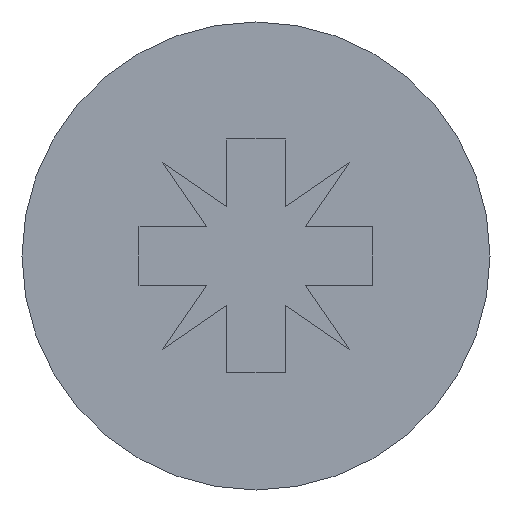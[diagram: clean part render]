
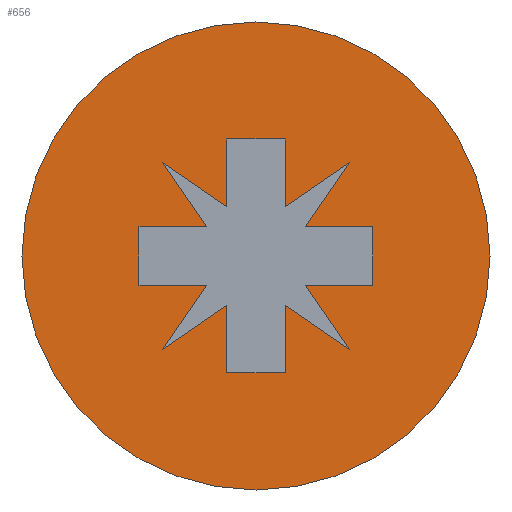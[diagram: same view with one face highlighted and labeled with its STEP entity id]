
A CAD part, left-side view. The second image highlights one B-rep face of the part: STEP entity #656.
In plain terms, the highlighted planar face has unit normal (-1, 0, 0).
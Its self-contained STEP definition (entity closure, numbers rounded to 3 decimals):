
#110=FACE_BOUND('',#190,.T.);
#125=CIRCLE('',#704,2.8);
#159=FACE_OUTER_BOUND('',#189,.T.);
#189=EDGE_LOOP('',(#583));
#190=EDGE_LOOP('',(#584,#585,#586,#587,#588,#589,#590,#591,#592,#593,#594,
#595,#596,#597,#598,#599,#600,#601,#602,#603));
#192=LINE('',#871,#258);
#196=LINE('',#880,#262);
#200=LINE('',#889,#266);
#206=LINE('',#901,#272);
#209=LINE('',#907,#275);
#212=LINE('',#913,#278);
#215=LINE('',#919,#281);
#217=LINE('',#924,#283);
#221=LINE('',#931,#287);
#224=LINE('',#937,#290);
#227=LINE('',#943,#293);
#237=LINE('',#961,#303);
#239=LINE('',#966,#305);
#242=LINE('',#970,#308);
#243=LINE('',#972,#309);
#244=LINE('',#975,#310);
#246=LINE('',#978,#312);
#247=LINE('',#981,#313);
#249=LINE('',#984,#315);
#250=LINE('',#986,#316);
#258=VECTOR('',#718,10.);
#262=VECTOR('',#724,10.);
#266=VECTOR('',#730,10.);
#272=VECTOR('',#738,10.);
#275=VECTOR('',#743,10.);
#278=VECTOR('',#748,10.);
#281=VECTOR('',#753,10.);
#283=VECTOR('',#757,10.);
#287=VECTOR('',#763,10.);
#290=VECTOR('',#768,10.);
#293=VECTOR('',#773,10.);
#303=VECTOR('',#787,10.);
#305=VECTOR('',#791,10.);
#308=VECTOR('',#796,10.);
#309=VECTOR('',#799,10.);
#310=VECTOR('',#802,10.);
#312=VECTOR('',#806,10.);
#313=VECTOR('',#809,10.);
#315=VECTOR('',#813,10.);
#316=VECTOR('',#816,10.);
#323=VERTEX_POINT('',#867);
#325=VERTEX_POINT('',#870);
#327=VERTEX_POINT('',#876);
#329=VERTEX_POINT('',#879);
#331=VERTEX_POINT('',#885);
#333=VERTEX_POINT('',#888);
#336=VERTEX_POINT('',#895);
#338=VERTEX_POINT('',#899);
#340=VERTEX_POINT('',#904);
#342=VERTEX_POINT('',#910);
#344=VERTEX_POINT('',#916);
#345=VERTEX_POINT('',#921);
#348=VERTEX_POINT('',#929);
#350=VERTEX_POINT('',#935);
#352=VERTEX_POINT('',#941);
#358=VERTEX_POINT('',#960);
#359=VERTEX_POINT('',#964);
#360=VERTEX_POINT('',#965);
#361=VERTEX_POINT('',#974);
#362=VERTEX_POINT('',#980);
#370=VERTEX_POINT('',#1008);
#374=EDGE_CURVE('',#325,#323,#192,.T.);
#378=EDGE_CURVE('',#329,#327,#196,.T.);
#382=EDGE_CURVE('',#333,#331,#200,.T.);
#388=EDGE_CURVE('',#336,#338,#206,.T.);
#391=EDGE_CURVE('',#340,#333,#209,.T.);
#394=EDGE_CURVE('',#342,#325,#212,.T.);
#397=EDGE_CURVE('',#344,#329,#215,.T.);
#399=EDGE_CURVE('',#338,#345,#217,.T.);
#403=EDGE_CURVE('',#323,#348,#221,.T.);
#406=EDGE_CURVE('',#327,#350,#224,.T.);
#409=EDGE_CURVE('',#331,#352,#227,.T.);
#419=EDGE_CURVE('',#358,#336,#237,.T.);
#421=EDGE_CURVE('',#359,#360,#239,.T.);
#424=EDGE_CURVE('',#345,#359,#242,.T.);
#425=EDGE_CURVE('',#352,#358,#243,.T.);
#426=EDGE_CURVE('',#361,#340,#244,.T.);
#428=EDGE_CURVE('',#348,#361,#246,.T.);
#429=EDGE_CURVE('',#362,#342,#247,.T.);
#431=EDGE_CURVE('',#350,#362,#249,.T.);
#432=EDGE_CURVE('',#360,#344,#250,.T.);
#444=EDGE_CURVE('',#370,#370,#125,.T.);
#583=ORIENTED_EDGE('',*,*,#444,.F.);
#584=ORIENTED_EDGE('',*,*,#374,.T.);
#585=ORIENTED_EDGE('',*,*,#403,.T.);
#586=ORIENTED_EDGE('',*,*,#428,.T.);
#587=ORIENTED_EDGE('',*,*,#426,.T.);
#588=ORIENTED_EDGE('',*,*,#391,.T.);
#589=ORIENTED_EDGE('',*,*,#382,.T.);
#590=ORIENTED_EDGE('',*,*,#409,.T.);
#591=ORIENTED_EDGE('',*,*,#425,.T.);
#592=ORIENTED_EDGE('',*,*,#419,.T.);
#593=ORIENTED_EDGE('',*,*,#388,.T.);
#594=ORIENTED_EDGE('',*,*,#399,.T.);
#595=ORIENTED_EDGE('',*,*,#424,.T.);
#596=ORIENTED_EDGE('',*,*,#421,.T.);
#597=ORIENTED_EDGE('',*,*,#432,.T.);
#598=ORIENTED_EDGE('',*,*,#397,.T.);
#599=ORIENTED_EDGE('',*,*,#378,.T.);
#600=ORIENTED_EDGE('',*,*,#406,.T.);
#601=ORIENTED_EDGE('',*,*,#431,.T.);
#602=ORIENTED_EDGE('',*,*,#429,.T.);
#603=ORIENTED_EDGE('',*,*,#394,.T.);
#626=PLANE('',#711);
#656=ADVANCED_FACE('',(#159,#110),#626,.T.);
#704=AXIS2_PLACEMENT_3D('',#1010,#844,#845);
#711=AXIS2_PLACEMENT_3D('',#1022,#861,#862);
#718=DIRECTION('',(0.,0.824,0.567));
#724=DIRECTION('',(0.,0.567,-0.824));
#730=DIRECTION('',(0.,-0.567,0.824));
#738=DIRECTION('',(0.,0.567,0.824));
#743=DIRECTION('',(0.,0.824,-0.567));
#748=DIRECTION('',(0.,-0.567,-0.824));
#753=DIRECTION('',(0.,-0.824,0.567));
#757=DIRECTION('',(0.,-0.824,-0.567));
#763=DIRECTION('',(0.,0.,-1.));
#768=DIRECTION('',(0.,-1.,0.));
#773=DIRECTION('',(0.,1.,0.));
#787=DIRECTION('',(0.,-1.,0.));
#791=DIRECTION('',(0.,-1.,0.));
#796=DIRECTION('',(0.,0.,1.));
#799=DIRECTION('',(0.,0.,1.));
#802=DIRECTION('',(0.,0.,1.));
#806=DIRECTION('',(0.,1.,0.));
#809=DIRECTION('',(0.,1.,0.));
#813=DIRECTION('',(0.,0.,-1.));
#816=DIRECTION('',(0.,0.,-1.));
#844=DIRECTION('center_axis',(1.,0.,0.));
#845=DIRECTION('ref_axis',(0.,0.,-1.));
#861=DIRECTION('center_axis',(-1.,0.,0.));
#862=DIRECTION('ref_axis',(0.,0.,1.));
#867=CARTESIAN_POINT('',(0.,-0.35,-0.591));
#870=CARTESIAN_POINT('',(0.,-1.12,-1.12));
#871=CARTESIAN_POINT('',(0.,0.472,-0.025));
#876=CARTESIAN_POINT('',(0.,-0.591,0.35));
#879=CARTESIAN_POINT('',(0.,-1.12,1.12));
#880=CARTESIAN_POINT('',(0.,-0.229,-0.175));
#885=CARTESIAN_POINT('',(0.,0.591,-0.35));
#888=CARTESIAN_POINT('',(0.,1.12,-1.12));
#889=CARTESIAN_POINT('',(0.,1.128,-1.132));
#895=CARTESIAN_POINT('',(0.,0.591,0.35));
#899=CARTESIAN_POINT('',(0.,1.12,1.12));
#901=CARTESIAN_POINT('',(0.,0.743,0.572));
#904=CARTESIAN_POINT('',(0.,0.35,-0.591));
#907=CARTESIAN_POINT('',(0.,0.869,-0.947));
#910=CARTESIAN_POINT('',(0.,-0.591,-0.35));
#913=CARTESIAN_POINT('',(0.,0.156,0.735));
#916=CARTESIAN_POINT('',(0.,-0.35,0.591));
#919=CARTESIAN_POINT('',(0.,1.032,-0.36));
#921=CARTESIAN_POINT('',(0.,0.35,0.591));
#924=CARTESIAN_POINT('',(0.,1.429,1.332));
#929=CARTESIAN_POINT('',(0.,-0.35,-1.4));
#931=CARTESIAN_POINT('',(0.,-0.35,-0.175));
#935=CARTESIAN_POINT('',(0.,-1.4,0.35));
#937=CARTESIAN_POINT('',(0.,1.225,0.35));
#941=CARTESIAN_POINT('',(0.,1.4,-0.35));
#943=CARTESIAN_POINT('',(0.,1.575,-0.35));
#960=CARTESIAN_POINT('',(0.,1.4,0.35));
#961=CARTESIAN_POINT('',(0.,2.1,0.35));
#964=CARTESIAN_POINT('',(0.,0.35,1.4));
#965=CARTESIAN_POINT('',(0.,-0.35,1.4));
#966=CARTESIAN_POINT('',(0.,1.575,1.4));
#970=CARTESIAN_POINT('',(0.,0.35,0.175));
#972=CARTESIAN_POINT('',(0.,1.4,-0.175));
#974=CARTESIAN_POINT('',(0.,0.35,-1.4));
#975=CARTESIAN_POINT('',(0.,0.35,-0.7));
#978=CARTESIAN_POINT('',(0.,1.225,-1.4));
#980=CARTESIAN_POINT('',(0.,-1.4,-0.35));
#981=CARTESIAN_POINT('',(0.,0.7,-0.35));
#984=CARTESIAN_POINT('',(0.,-1.4,0.175));
#986=CARTESIAN_POINT('',(0.,-0.35,0.7));
#1008=CARTESIAN_POINT('',(0.,-2.8,0.));
#1010=CARTESIAN_POINT('Origin',(0.,0.,0.));
#1022=CARTESIAN_POINT('Origin',(0.,2.8,0.));
